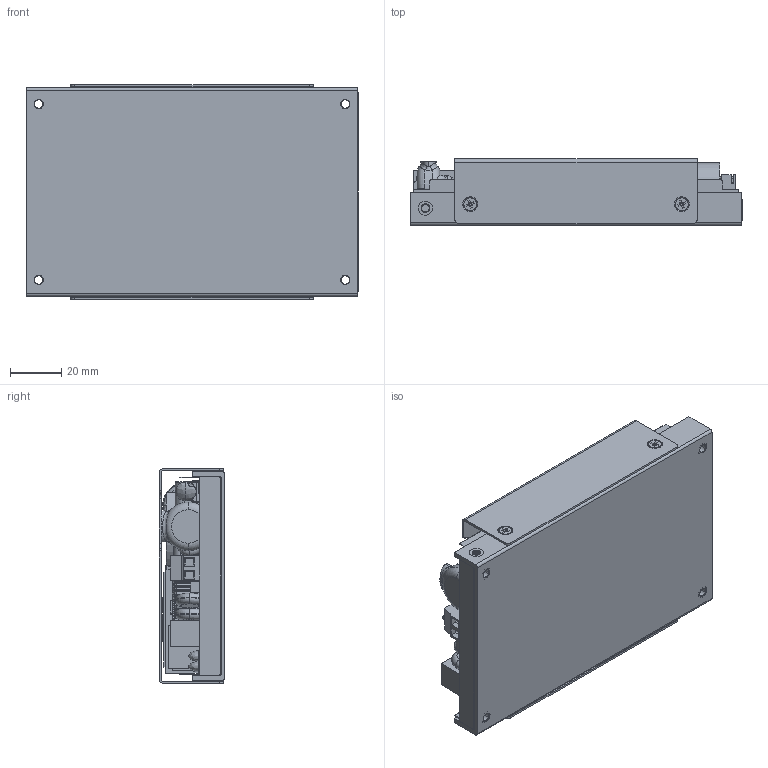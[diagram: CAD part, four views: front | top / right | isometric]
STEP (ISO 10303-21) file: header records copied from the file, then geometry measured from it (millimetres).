
FILE_DESCRIPTION (( 'STEP AP214' ), '1' );
FILE_NAME ('LFM550S(M)XXXC.STEP', '2024-10-29T01:15:50', ( 'cincon' ), ( '' ), 'SwSTEP 2.0', 'SolidWorks 2020', '' );
FILE_SCHEMA (( 'AUTOMOTIVE_DESIGN' ));
Length unit declared in the file: millimetre
Products named in the file (1): LFM550S(M)XXXC
Bounding box: 129.4 x 25.7 x 83.5 mm (x, y, z)
Volume: 183091.8 mm3; surface area: 86177.6 mm2
Topology: 32 solids, 37 shells, 2643 faces, 7204 edges, 4373 vertices
Faces by surface type: cylinder 1112, plane 824, torus 506, bspline 151, cone 50
Entity records: 127346 total; most frequent: CARTESIAN_POINT 33522, ORIENTED_EDGE 13926, DIRECTION 13342, EDGE_CURVE 6963, AXIS2_PLACEMENT_3D 5172, VERTEX_POINT 4398, VECTOR 2998, LINE 2998
